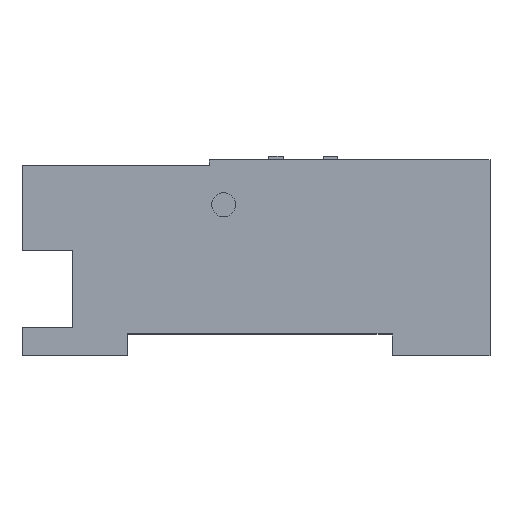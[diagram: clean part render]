
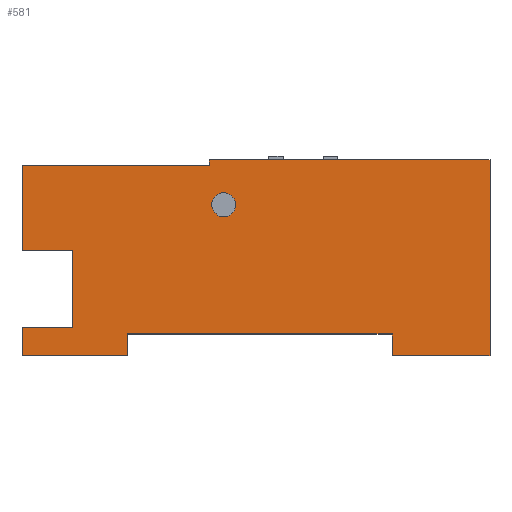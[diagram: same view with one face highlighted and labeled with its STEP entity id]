
A CAD part, top view. The second image highlights one B-rep face of the part: STEP entity #581.
In plain terms, the highlighted planar face has unit normal (0, 0, 1).
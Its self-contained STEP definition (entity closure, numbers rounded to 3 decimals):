
#42 = CARTESIAN_POINT ( 'NONE',  ( -50., 0., 5. ) ) ;
#43 = LINE ( 'NONE', #42, #88 ) ;
#44 = CARTESIAN_POINT ( 'NONE',  ( -50., -24., 5. ) ) ;
#56 = DIRECTION ( 'NONE',  ( -1., 0., 0. ) ) ;
#57 = DIRECTION ( 'NONE',  ( 0., 0., -1. ) ) ;
#58 = CARTESIAN_POINT ( 'NONE',  ( 0., 0., 5. ) ) ;
#59 = AXIS2_PLACEMENT_3D ( 'NONE', #58, #57, #56 ) ;
#60 = PLANE ( 'NONE',  #59 ) ;
#61 = FACE_OUTER_BOUND ( 'NONE', #497, .T. ) ;
#62 = FACE_BOUND ( 'NONE', #453, .T. ) ;
#76 = CARTESIAN_POINT ( 'NONE',  ( -13.5, -24., 5. ) ) ;
#77 = DIRECTION ( 'NONE',  ( 1., 0., 0. ) ) ;
#78 = VECTOR ( 'NONE', #77, 1000. ) ;
#79 = CARTESIAN_POINT ( 'NONE',  ( 0., -24., 5. ) ) ;
#80 = LINE ( 'NONE', #79, #78 ) ;
#87 = DIRECTION ( 'NONE',  ( 0., 1., 0. ) ) ;
#88 = VECTOR ( 'NONE', #87, 1000. ) ;
#372 = VERTEX_POINT ( 'NONE', #769 ) ;
#381 = EDGE_CURVE ( 'NONE', #382, #372, #821, .T. ) ;
#382 = VERTEX_POINT ( 'NONE', #817 ) ;
#404 = EDGE_CURVE ( 'NONE', #533, #405, #1113, .T. ) ;
#405 = VERTEX_POINT ( 'NONE', #1108 ) ;
#409 = EDGE_CURVE ( 'NONE', #516, #456, #1103, .T. ) ;
#449 = EDGE_CURVE ( 'NONE', #450, #451, #1168, .T. ) ;
#450 = VERTEX_POINT ( 'NONE', #1164 ) ;
#451 = VERTEX_POINT ( 'NONE', #1163 ) ;
#453 = EDGE_LOOP ( 'NONE', ( #494, #496 ) ) ;
#455 = EDGE_CURVE ( 'NONE', #456, #475, #1162, .T. ) ;
#456 = VERTEX_POINT ( 'NONE', #996 ) ;
#462 = EDGE_CURVE ( 'NONE', #489, #382, #990, .T. ) ;
#474 = EDGE_CURVE ( 'NONE', #475, #521, #970, .T. ) ;
#475 = VERTEX_POINT ( 'NONE', #966 ) ;
#480 = EDGE_CURVE ( 'NONE', #481, #489, #1021, .T. ) ;
#481 = VERTEX_POINT ( 'NONE', #1017 ) ;
#489 = VERTEX_POINT ( 'NONE', #1010 ) ;
#494 = ORIENTED_EDGE ( 'NONE', *, *, #495, .F. ) ;
#495 = EDGE_CURVE ( 'NONE', #405, #533, #999, .T. ) ;
#496 = ORIENTED_EDGE ( 'NONE', *, *, #404, .F. ) ;
#497 = EDGE_LOOP ( 'NONE', ( #498, #499, #504, #506, #507, #514, #517, #575, #562, #566, #616, #553, #555, #556 ) ) ;
#498 = ORIENTED_EDGE ( 'NONE', *, *, #381, .T. ) ;
#499 = ORIENTED_EDGE ( 'NONE', *, *, #502, .T. ) ;
#502 = EDGE_CURVE ( 'NONE', #372, #503, #954, .T. ) ;
#503 = VERTEX_POINT ( 'NONE', #950 ) ;
#504 = ORIENTED_EDGE ( 'NONE', *, *, #505, .T. ) ;
#505 = EDGE_CURVE ( 'NONE', #503, #450, #949, .T. ) ;
#506 = ORIENTED_EDGE ( 'NONE', *, *, #449, .T. ) ;
#507 = ORIENTED_EDGE ( 'NONE', *, *, #512, .T. ) ;
#512 = EDGE_CURVE ( 'NONE', #451, #513, #937, .T. ) ;
#513 = VERTEX_POINT ( 'NONE', #933 ) ;
#514 = ORIENTED_EDGE ( 'NONE', *, *, #515, .T. ) ;
#515 = EDGE_CURVE ( 'NONE', #513, #516, #1061, .T. ) ;
#516 = VERTEX_POINT ( 'NONE', #1057 ) ;
#517 = ORIENTED_EDGE ( 'NONE', *, *, #409, .T. ) ;
#521 = VERTEX_POINT ( 'NONE', #1051 ) ;
#533 = VERTEX_POINT ( 'NONE', #1035 ) ;
#553 = ORIENTED_EDGE ( 'NONE', *, *, #554, .T. ) ;
#554 = EDGE_CURVE ( 'NONE', #618, #481, #1065, .T. ) ;
#555 = ORIENTED_EDGE ( 'NONE', *, *, #480, .T. ) ;
#556 = ORIENTED_EDGE ( 'NONE', *, *, #462, .T. ) ;
#558 = VERTEX_POINT ( 'NONE', #44 ) ;
#559 = EDGE_CURVE ( 'NONE', #521, #558, #43, .T. ) ;
#562 = ORIENTED_EDGE ( 'NONE', *, *, #474, .T. ) ;
#566 = ORIENTED_EDGE ( 'NONE', *, *, #559, .T. ) ;
#575 = ORIENTED_EDGE ( 'NONE', *, *, #455, .T. ) ;
#581 = ADVANCED_FACE ( 'NONE', ( #62, #61 ), #60, .F. ) ;
#616 = ORIENTED_EDGE ( 'NONE', *, *, #617, .T. ) ;
#617 = EDGE_CURVE ( 'NONE', #558, #618, #80, .T. ) ;
#618 = VERTEX_POINT ( 'NONE', #76 ) ;
#769 = CARTESIAN_POINT ( 'NONE',  ( -38.7, 0., 5. ) ) ;
#817 = CARTESIAN_POINT ( 'NONE',  ( 0., 0., 5. ) ) ;
#818 = DIRECTION ( 'NONE',  ( -1., 0., 0. ) ) ;
#819 = VECTOR ( 'NONE', #818, 1000. ) ;
#820 = CARTESIAN_POINT ( 'NONE',  ( 0., 0., 5. ) ) ;
#821 = LINE ( 'NONE', #820, #819 ) ;
#933 = CARTESIAN_POINT ( 'NONE',  ( -57.5, -12.55, 5. ) ) ;
#934 = DIRECTION ( 'NONE',  ( 1., 0., 0. ) ) ;
#935 = VECTOR ( 'NONE', #934, 1000. ) ;
#936 = CARTESIAN_POINT ( 'NONE',  ( 0., -12.55, 5. ) ) ;
#937 = LINE ( 'NONE', #936, #935 ) ;
#946 = DIRECTION ( 'NONE',  ( -1., 0., 0. ) ) ;
#947 = VECTOR ( 'NONE', #946, 1000. ) ;
#948 = CARTESIAN_POINT ( 'NONE',  ( 0., -0.8, 5. ) ) ;
#949 = LINE ( 'NONE', #948, #947 ) ;
#950 = CARTESIAN_POINT ( 'NONE',  ( -38.7, -0.8, 5. ) ) ;
#951 = DIRECTION ( 'NONE',  ( 0., -1., 0. ) ) ;
#952 = VECTOR ( 'NONE', #951, 1000. ) ;
#953 = CARTESIAN_POINT ( 'NONE',  ( -38.7, 0., 5. ) ) ;
#954 = LINE ( 'NONE', #953, #952 ) ;
#963 = DIRECTION ( 'NONE',  ( 1., 0., 0. ) ) ;
#964 = DIRECTION ( 'NONE',  ( 0., 0., 1. ) ) ;
#965 = AXIS2_PLACEMENT_3D ( 'NONE', #998, #964, #963 ) ;
#966 = CARTESIAN_POINT ( 'NONE',  ( -64.5, -27., 5. ) ) ;
#967 = DIRECTION ( 'NONE',  ( 1., 0., 0. ) ) ;
#968 = VECTOR ( 'NONE', #967, 1000. ) ;
#969 = CARTESIAN_POINT ( 'NONE',  ( 0., -27., 5. ) ) ;
#970 = LINE ( 'NONE', #969, #968 ) ;
#987 = DIRECTION ( 'NONE',  ( 0., 1., 0. ) ) ;
#988 = VECTOR ( 'NONE', #987, 1000. ) ;
#989 = CARTESIAN_POINT ( 'NONE',  ( 0., 0., 5. ) ) ;
#990 = LINE ( 'NONE', #989, #988 ) ;
#996 = CARTESIAN_POINT ( 'NONE',  ( -64.5, -23.05, 5. ) ) ;
#997 = DIRECTION ( 'NONE',  ( 0., -1., 0. ) ) ;
#998 = CARTESIAN_POINT ( 'NONE',  ( -36.7, -6.2, 5. ) ) ;
#999 = CIRCLE ( 'NONE', #965, 1.65 ) ;
#1010 = CARTESIAN_POINT ( 'NONE',  ( 0., -27., 5. ) ) ;
#1017 = CARTESIAN_POINT ( 'NONE',  ( -13.5, -27., 5. ) ) ;
#1018 = DIRECTION ( 'NONE',  ( 1., 0., 0. ) ) ;
#1019 = VECTOR ( 'NONE', #1018, 1000. ) ;
#1020 = CARTESIAN_POINT ( 'NONE',  ( 0., -27., 5. ) ) ;
#1021 = LINE ( 'NONE', #1020, #1019 ) ;
#1035 = CARTESIAN_POINT ( 'NONE',  ( -38.35, -6.2, 5. ) ) ;
#1051 = CARTESIAN_POINT ( 'NONE',  ( -50., -27., 5. ) ) ;
#1057 = CARTESIAN_POINT ( 'NONE',  ( -57.5, -23.05, 5. ) ) ;
#1058 = DIRECTION ( 'NONE',  ( 0., -1., 0. ) ) ;
#1059 = VECTOR ( 'NONE', #1058, 1000. ) ;
#1060 = CARTESIAN_POINT ( 'NONE',  ( -57.5, 0., 5. ) ) ;
#1061 = LINE ( 'NONE', #1060, #1059 ) ;
#1062 = DIRECTION ( 'NONE',  ( 0., -1., 0. ) ) ;
#1063 = VECTOR ( 'NONE', #1062, 1000. ) ;
#1064 = CARTESIAN_POINT ( 'NONE',  ( -13.5, 0., 5. ) ) ;
#1065 = LINE ( 'NONE', #1064, #1063 ) ;
#1100 = DIRECTION ( 'NONE',  ( -1., 0., 0. ) ) ;
#1101 = VECTOR ( 'NONE', #1100, 1000. ) ;
#1102 = CARTESIAN_POINT ( 'NONE',  ( 0., -23.05, 5. ) ) ;
#1103 = LINE ( 'NONE', #1102, #1101 ) ;
#1108 = CARTESIAN_POINT ( 'NONE',  ( -35.05, -6.2, 5. ) ) ;
#1109 = DIRECTION ( 'NONE',  ( 1., 0., 0. ) ) ;
#1110 = DIRECTION ( 'NONE',  ( 0., 0., 1. ) ) ;
#1111 = CARTESIAN_POINT ( 'NONE',  ( -36.7, -6.2, 5. ) ) ;
#1112 = AXIS2_PLACEMENT_3D ( 'NONE', #1111, #1110, #1109 ) ;
#1113 = CIRCLE ( 'NONE', #1112, 1.65 ) ;
#1160 = VECTOR ( 'NONE', #997, 1000. ) ;
#1161 = CARTESIAN_POINT ( 'NONE',  ( -64.5, 0., 5. ) ) ;
#1162 = LINE ( 'NONE', #1161, #1160 ) ;
#1163 = CARTESIAN_POINT ( 'NONE',  ( -64.5, -12.55, 5. ) ) ;
#1164 = CARTESIAN_POINT ( 'NONE',  ( -64.5, -0.8, 5. ) ) ;
#1165 = DIRECTION ( 'NONE',  ( 0., -1., 0. ) ) ;
#1166 = VECTOR ( 'NONE', #1165, 1000. ) ;
#1167 = CARTESIAN_POINT ( 'NONE',  ( -64.5, 0., 5. ) ) ;
#1168 = LINE ( 'NONE', #1167, #1166 ) ;
